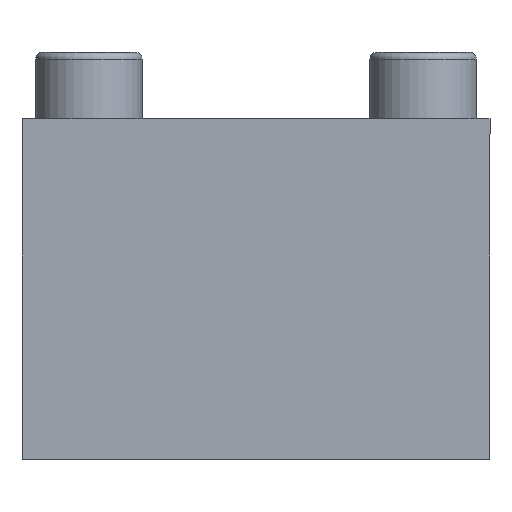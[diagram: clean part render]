
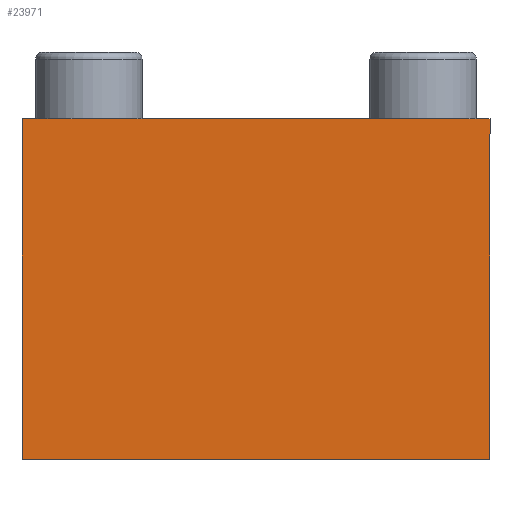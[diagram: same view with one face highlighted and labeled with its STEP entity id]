
A CAD part, front view. The second image highlights one B-rep face of the part: STEP entity #23971.
In plain terms, the highlighted planar face has unit normal (0, -1, 0).
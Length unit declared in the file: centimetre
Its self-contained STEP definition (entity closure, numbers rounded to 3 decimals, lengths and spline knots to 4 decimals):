
#2571=FACE_OUTER_BOUND('',#3857,.T.);
#3857=EDGE_LOOP('',(#16267,#16268,#16269,#16270));
#5309=LINE('',#30958,#7917);
#5313=LINE('',#30967,#7921);
#5314=LINE('',#30968,#7922);
#5315=LINE('',#30969,#7923);
#7917=VECTOR('',#26295,5.1);
#7921=VECTOR('',#26301,5.1);
#7922=VECTOR('',#26302,7.);
#7923=VECTOR('',#26303,7.);
#10585=VERTEX_POINT('',#30956);
#10586=VERTEX_POINT('',#30957);
#10589=VERTEX_POINT('',#30965);
#10590=VERTEX_POINT('',#30966);
#12865=EDGE_CURVE('',#10585,#10586,#5309,.T.);
#12869=EDGE_CURVE('',#10589,#10590,#5313,.T.);
#12870=EDGE_CURVE('',#10585,#10589,#5314,.T.);
#12871=EDGE_CURVE('',#10590,#10586,#5315,.T.);
#16267=ORIENTED_EDGE('',*,*,#12869,.F.);
#16268=ORIENTED_EDGE('',*,*,#12870,.F.);
#16269=ORIENTED_EDGE('',*,*,#12865,.T.);
#16270=ORIENTED_EDGE('',*,*,#12871,.F.);
#23057=PLANE('',#25261);
#23971=ADVANCED_FACE('',(#2571),#23057,.T.);
#25261=AXIS2_PLACEMENT_3D('',#30964,#26299,#26300);
#26295=DIRECTION('',(0.,0.,-1.));
#26299=DIRECTION('center_axis',(0.,-1.,0.));
#26300=DIRECTION('ref_axis',(-1.,0.,0.));
#26301=DIRECTION('',(0.,0.,-1.));
#26302=DIRECTION('',(1.,0.,0.));
#26303=DIRECTION('',(-1.,0.,0.));
#30956=CARTESIAN_POINT('',(-3.5,-18.5,4.1));
#30957=CARTESIAN_POINT('',(-3.5,-18.5,-1.));
#30958=CARTESIAN_POINT('',(-3.5,-18.5,0.));
#30964=CARTESIAN_POINT('Origin',(3.5,-18.5,3.1));
#30965=CARTESIAN_POINT('',(3.5,-18.5,4.1));
#30966=CARTESIAN_POINT('',(3.5,-18.5,-1.));
#30967=CARTESIAN_POINT('',(3.5,-18.5,0.));
#30968=CARTESIAN_POINT('',(3.5,-18.5,4.1));
#30969=CARTESIAN_POINT('',(3.5,-18.5,-1.));
